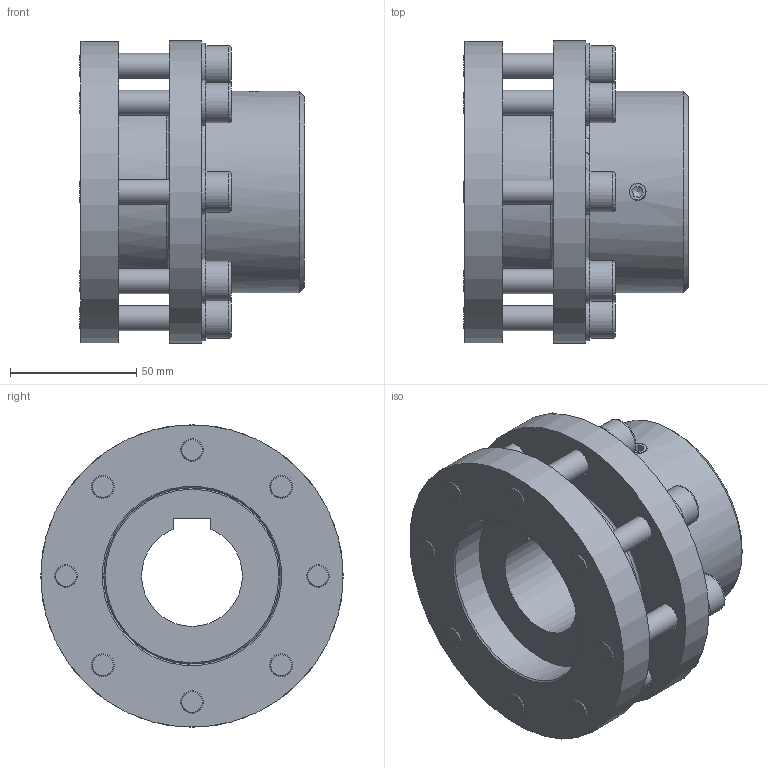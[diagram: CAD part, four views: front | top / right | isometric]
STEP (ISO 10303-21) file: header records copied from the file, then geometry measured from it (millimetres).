
FILE_DESCRIPTION(/* description */ (''),/* implementation_level */ '2;1');
FILE_NAME(/* name */ 'C:\Users\milman01\Desktop\step file\xxxxxx\49379.stp',/* time_stamp */ '2017-03-15T09:58:31+01:00',/* author */ ('milman01'),/* organization */ (''),/* preprocessor_version */ 'ST-DEVELOPER v16.1',/* originating_system */ 'Autodesk Inventor 2016',/* authorisation */ '');
FILE_SCHEMA (('AUTOMOTIVE_DESIGN { 1 0 10303 214 3 1 1 }'));
Length unit declared in the file: millimetre
Products named in the file (1): 54706_Shrinkwrap_1
Bounding box: 88.9 x 120 x 120 mm (x, y, z)
Volume: 473846 mm3; surface area: 90266.2 mm2
Topology: 1 solids, 1 shells, 194 faces, 441 edges, 286 vertices
Faces by surface type: plane 110, cylinder 49, cone 25, torus 10
Full cylindrical faces by diameter (mm): 6.647 x1, 10 x8, 10.5 x8, 11 x8, 16 x8, 18 x8, 70 x2, 80 x1, 120 x2
Entity records: 5104 total; most frequent: CARTESIAN_POINT 1031, DIRECTION 798, ORIENTED_EDGE 660, AXIS2_PLACEMENT_3D 337, EDGE_CURVE 330, EDGE_LOOP 329, VERTEX_POINT 255, STYLED_ITEM 195
